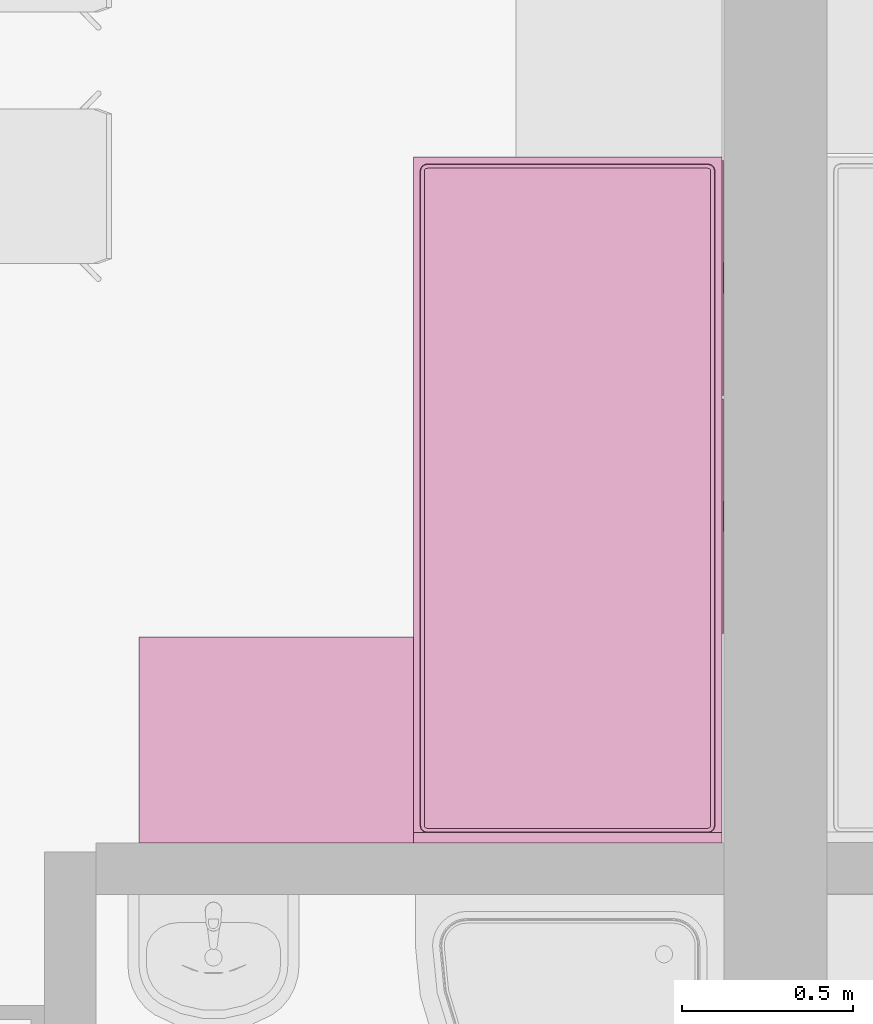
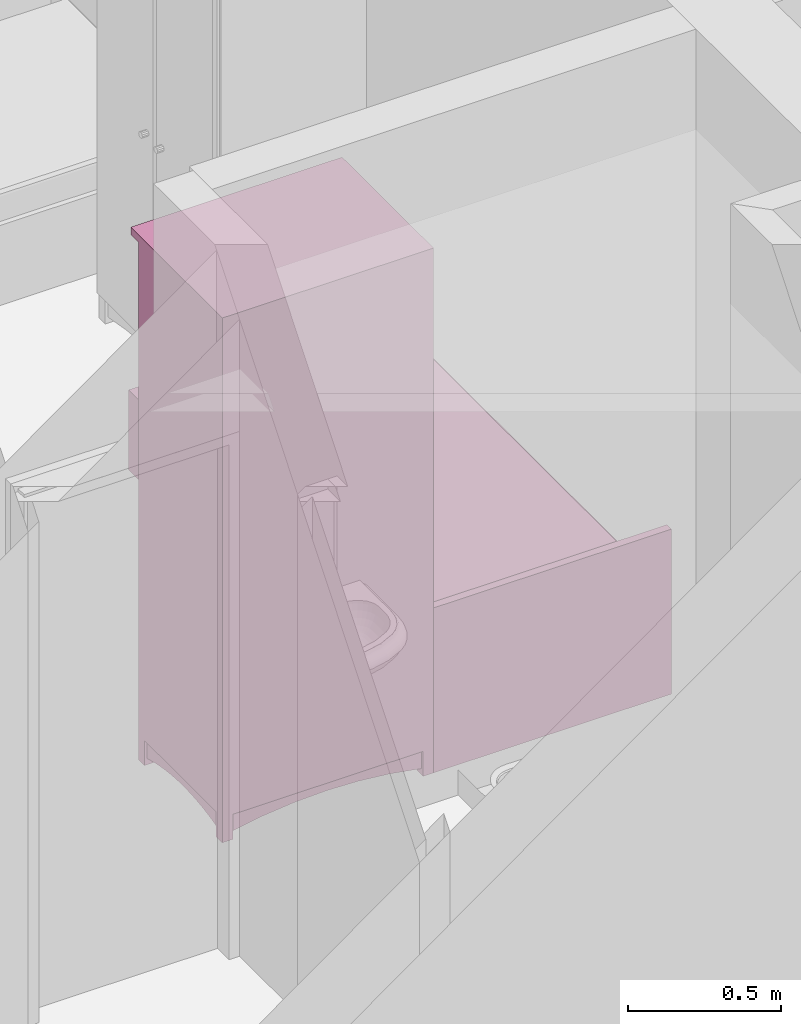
# One storey, part 109 of 172: 2 furnishings.
"""IFC2X3 building model written with IfcOpenShell, lengths in millimetres."""

import ifcopenshell
import ifcopenshell.guid

model = None  # the IFC model being written
_history = None  # IfcOwnerHistory: only IFC2X3 demands one
_inside = {}  # id of a spatial element -> (the spatial element, [elements in it])
_under = {}  # id of a project, library or spatial element -> (it, [spatial elements below it])
_declared = {}  # id of a project -> (the project, [libraries it declares])
_typed = {}  # id of a type object -> (the type object, [elements of that type])
_made_of = {}  # id of a material, layer set ... -> (it, [elements and type objects made of it])


def new_model(schema):
    """Start an empty IFC model of exactly this schema.

    Asked for "IFC4X3", IfcOpenShell would pick the latest addendum, in which some entities
    have other attributes; the version numbers below select the first issue.
    IFC2X3 requires an IfcOwnerHistory on every rooted entity: one is made here for all.
    """
    global model, _history
    if schema == "IFC4X3":
        model = ifcopenshell.file(schema_version=(4, 3, 0, 0))
    else:
        model = ifcopenshell.file(schema=schema)
    _inside.clear()
    _under.clear()
    _declared.clear()
    _typed.clear()
    _made_of.clear()
    _history = None
    if model.schema == "IFC2X3":
        org = make("IfcOrganization", Name="unknown")
        user = make(
            "IfcPersonAndOrganization",
            ThePerson=make("IfcPerson", FamilyName="unknown"),
            TheOrganization=org,
        )
        app = make(
            "IfcApplication",
            ApplicationDeveloper=org,
            Version="unknown",
            ApplicationFullName="unknown",
            ApplicationIdentifier="unknown",
        )
        _history = make(
            "IfcOwnerHistory",
            OwningUser=user,
            OwningApplication=app,
            ChangeAction="ADDED",
            CreationDate=0,
        )
    return model


def make(cls, **values):
    """One entity of the class cls with the attributes given. An attribute that is None is left unset."""
    return model.create_entity(
        cls, **{name: value for name, value in values.items() if value is not None}
    )


def entity(cls, *values):
    """Any entity or typed value of the class cls, its attributes in the order of the schema. None: left unset."""
    e = model.create_entity(cls)
    for i, value in enumerate(values):
        if value is not None:
            e[i] = value
    return e


def rooted(cls, **values):
    """An entity with a GlobalId (a new one), such as an element, a storey or a relation."""
    return make(cls, GlobalId=ifcopenshell.guid.new(), OwnerHistory=_history, **values)


def si_unit(unit_type, name, prefix=None):
    """IfcSIUnit, for example si_unit("LENGTHUNIT", "METRE", prefix="MILLI")."""
    return make("IfcSIUnit", UnitType=unit_type, Prefix=prefix, Name=name)


def converted_unit(unit_type, name, factor, base, dimensions=None, offset=None):
    """IfcConversionBasedUnit, such as the inch: factor (a typed value) times the base unit."""
    return make(
        "IfcConversionBasedUnit"
        if offset is None
        else "IfcConversionBasedUnitWithOffset",
        ConversionOffset=offset,
        Dimensions=None
        if dimensions is None
        else entity("IfcDimensionalExponents", *dimensions),
        UnitType=unit_type,
        Name=name,
        ConversionFactor=make(
            "IfcMeasureWithUnit", ValueComponent=factor, UnitComponent=base
        ),
    )


def money_unit(currency):
    """IfcMonetaryUnit."""
    return make("IfcMonetaryUnit", Currency=currency)


def assignment(units):
    """IfcUnitAssignment: the units of a project."""
    return None if units is None else make("IfcUnitAssignment", Units=units)


def point(xyz):
    """IfcCartesianPoint."""
    return None if xyz is None else make("IfcCartesianPoint", Coordinates=xyz)


def direction(xyz):
    """IfcDirection."""
    return None if xyz is None else make("IfcDirection", DirectionRatios=xyz)


def frame(location, z_axis=None, x_axis=None):
    """IfcAxis2Placement3D, a coordinate frame: its origin and axes. An axis left out is left unset."""
    return make(
        "IfcAxis2Placement3D",
        Location=point(location),
        Axis=direction(z_axis),
        RefDirection=direction(x_axis),
    )


def origin_with_axes():
    """The frame at (0, 0, 0) with the z axis (0, 0, 1) and the x axis (1, 0, 0) written out."""
    return frame((0.0, 0.0, 0.0), z_axis=(0.0, 0.0, 1.0), x_axis=(1.0, 0.0, 0.0))


def place(relative_to, where):
    """IfcLocalPlacement: puts the frame where relative to a parent placement (None: the world)."""
    return make(
        "IfcLocalPlacement", PlacementRelTo=relative_to, RelativePlacement=where
    )


def context(
    kind, dimensions, precision=None, world=None, true_north=None, identifier=None
):
    """IfcGeometricRepresentationContext, for example the 3D "Model" context."""
    return make(
        "IfcGeometricRepresentationContext",
        ContextIdentifier=identifier,
        ContextType=kind,
        CoordinateSpaceDimension=dimensions,
        Precision=precision,
        WorldCoordinateSystem=world,
        TrueNorth=true_north,
    )


def subcontext(parent, identifier, kind, view, scale=None):
    """IfcGeometricRepresentationSubContext, for example "Body" below "Model"."""
    return make(
        "IfcGeometricRepresentationSubContext",
        ContextIdentifier=identifier,
        ContextType=kind,
        ParentContext=parent,
        TargetScale=scale,
        TargetView=view,
    )


def project(units=None, contexts=None):
    """IfcProject with its units and contexts."""
    return rooted(
        "IfcProject",
        Name="project",
        RepresentationContexts=contexts,
        UnitsInContext=assignment(units),
    )


def spatial(cls, under=None, at=None, **own):
    """A site, building, storey or space (cls), placed at a placement, below another one or the project."""
    s = rooted(cls, ObjectPlacement=at, **own)
    if under is not None:
        _under.setdefault(under.id(), (under, []))[1].append(s)
    return s


def faces_of(points, faces, orient=None, outer=None):
    """IfcFace entities. A face is a list of loops; a loop is a list of indices into points, from 0.

    orient and outer hold one flag for each loop. By default every Orientation is true, the
    first loop of a face is its IfcFaceOuterBound and the others are IfcFaceBound.
    """
    made = []
    for i, loops in enumerate(faces):
        bounds = []
        for j, loop in enumerate(loops):
            is_outer = j == 0 if outer is None else outer[i][j]
            bounds.append(
                make(
                    "IfcFaceOuterBound" if is_outer else "IfcFaceBound",
                    Bound=make("IfcPolyLoop", Polygon=[points[k] for k in loop]),
                    Orientation=True if orient is None else orient[i][j],
                )
            )
        made.append(make("IfcFace", Bounds=bounds))
    return made


def faceted_brep(points, faces, orient=None, outer=None, voids=None):
    """IfcFacetedBrep: a solid bounded by flat faces; with voids (closed shells), ...WithVoids."""
    shared = [point(p) for p in points]
    hull = make("IfcClosedShell", CfsFaces=faces_of(shared, faces, orient, outer))
    if voids is None:
        return make("IfcFacetedBrep", Outer=hull)
    return make(
        "IfcFacetedBrepWithVoids",
        Outer=hull,
        Voids=[
            make(cls, CfsFaces=faces_of(shared, fs, o, b)) for cls, fs, o, b in voids
        ],
    )


def shape(context_of_items, identifier, shape_type, items):
    """IfcShapeRepresentation: the items that make up one representation, for example the "Body"."""
    return make(
        "IfcShapeRepresentation",
        ContextOfItems=context_of_items,
        RepresentationIdentifier=identifier,
        RepresentationType=shape_type,
        Items=items,
    )


def source(mapping_origin, context_of_items, identifier, shape_type, items):
    """IfcRepresentationMap: a shape defined once, which mapped items show again and again."""
    return make(
        "IfcRepresentationMap",
        MappingOrigin=mapping_origin,
        MappedRepresentation=shape(context_of_items, identifier, shape_type, items),
    )


def transform(
    local_origin,
    x_axis=None,
    y_axis=None,
    z_axis=None,
    scale=None,
    scale2=None,
    scale3=None,
    uniform=True,
):
    """IfcCartesianTransformationOperator3D, or its non-uniform kind. x_axis, y_axis, z_axis: its Axis1, 2, 3."""
    if uniform:
        return make(
            "IfcCartesianTransformationOperator3D",
            Axis1=direction(x_axis),
            Axis2=direction(y_axis),
            LocalOrigin=point(local_origin),
            Scale=scale,
            Axis3=direction(z_axis),
        )
    return make(
        "IfcCartesianTransformationOperator3DnonUniform",
        Axis1=direction(x_axis),
        Axis2=direction(y_axis),
        LocalOrigin=point(local_origin),
        Scale=scale,
        Axis3=direction(z_axis),
        Scale2=scale2,
        Scale3=scale3,
    )


def mapped(mapping_source, mapping_target):
    """IfcMappedItem: shows the shape of a source again, moved by a transform."""
    return make(
        "IfcMappedItem", MappingSource=mapping_source, MappingTarget=mapping_target
    )


def material(Name=None, Category=None):
    """IfcMaterial."""
    return make("IfcMaterial", Name=Name, Category=Category)


def material_list(materials):
    """IfcMaterialList."""
    return make("IfcMaterialList", Materials=materials)


def made_of(thing, what):
    """Note that an element or type object is made of a material, layer set ...; save() writes the relation."""
    if what is not None:
        _made_of.setdefault(what.id(), (what, []))[1].append(thing)
    return thing


def type_object(cls, material=None, **own):
    """A type object (cls), such as IfcWallType, which elements share."""
    return made_of(rooted(cls, **own), material)


def element(
    cls,
    number,
    at=None,
    inside=None,
    cuts=None,
    type_object=None,
    material=None,
    context=None,
    identifier="Body",
    shape_type=None,
    held_by="IfcProductDefinitionShape",
    body=None,
    shapes=None,
    **own,
):
    """One element of the class cls, such as IfcWall. Its Tag is "e" and its number.

    at: its placement. inside: the storey or other place that contains it. cuts: it is an
    opening in that element (IfcRelVoidsElement). A single representation is given by context,
    identifier, shape_type and body (its items); several are given by shapes. held_by: the class
    of the entity that holds the representations. save() writes the other relations.
    """
    e = rooted(cls, Tag="e%d" % number, ObjectPlacement=at, **own)
    if body is not None:
        shapes = [shape(context, identifier, shape_type, body)]
    if shapes is not None:
        e.Representation = make(held_by, Representations=shapes)
    if inside is not None:
        _inside.setdefault(inside.id(), (inside, []))[1].append(e)
    if cuts is not None:
        rooted(
            "IfcRelVoidsElement", RelatingBuildingElement=cuts, RelatedOpeningElement=e
        )
    if type_object is not None:
        _typed.setdefault(type_object.id(), (type_object, []))[1].append(e)
    return made_of(e, material)


def aggregate(whole, parts):
    """IfcRelAggregates: a whole, such as a stair, and the parts it consists of."""
    return rooted("IfcRelAggregates", RelatingObject=whole, RelatedObjects=parts)


def save(model, path):
    """Write the relations noted so far, then the file.

    IfcRelAggregates (storeys below a building ...), IfcRelContainedInSpatialStructure (elements
    in a storey), IfcRelDefinesByType, IfcRelAssociatesMaterial and IfcRelDeclares: one each for
    every whole, place, type object, material and project.
    """
    for whole, parts in _under.values():
        aggregate(whole, parts)
    for where, things in _inside.values():
        rooted(
            "IfcRelContainedInSpatialStructure",
            RelatedElements=things,
            RelatingStructure=where,
        )
    for kind, things in _typed.values():
        rooted("IfcRelDefinesByType", RelatedObjects=things, RelatingType=kind)
    for what, things in _made_of.values():
        rooted("IfcRelAssociatesMaterial", RelatedObjects=things, RelatingMaterial=what)
    for by, libraries in _declared.values():
        rooted("IfcRelDeclares", RelatingContext=by, RelatedDefinitions=libraries)
    model.write(path)


model = new_model("IFC2X3")

# Units and contexts
model_context = context("Model", 3, precision=1e-05, world=origin_with_axes(), true_north=direction((0.0, 1.0)))
body_context = subcontext(model_context, "Body", "Model", "MODEL_VIEW")
ifc_project = project(units=[si_unit("LENGTHUNIT", "METRE", prefix="MILLI"), si_unit("AREAUNIT", "SQUARE_METRE"), si_unit("VOLUMEUNIT", "CUBIC_METRE"), converted_unit("PLANEANGLEUNIT", "DEGREE", entity("IfcPlaneAngleMeasure", 0.0174532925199), si_unit("PLANEANGLEUNIT", "RADIAN"), dimensions=[0, 0, 0, 0, 0, 0, 0]), si_unit("SOLIDANGLEUNIT", "STERADIAN"), money_unit("USD"), converted_unit("TIMEUNIT", "Year", entity("IfcTimeMeasure", 31556926.0), si_unit("TIMEUNIT", "SECOND"), dimensions=[0, 0, 0, 0, 0, 0, 0]), si_unit("MASSUNIT", "GRAM"), si_unit("THERMODYNAMICTEMPERATUREUNIT", "DEGREE_CELSIUS"), si_unit("LUMINOUSINTENSITYUNIT", "LUMEN")], contexts=[model_context])

# Site, building, storey
site_placement = place(None, origin_with_axes())
site = spatial("IfcSite", under=ifc_project, at=site_placement, Name="Site", CompositionType="ELEMENT")
building_placement = place(site_placement, origin_with_axes())
building = spatial("IfcBuilding", under=site, at=building_placement, Name="Building", CompositionType="ELEMENT")
storey_placement = place(building_placement, frame((0.0, 0.0, 3200.0), z_axis=(0.0, 0.0, 1.0), x_axis=(1.0, 0.0, 0.0)))
storey = spatial("IfcBuildingStorey", under=building, at=storey_placement, Name="3KORRUS", CompositionType="ELEMENT", Elevation=3200.0)

# Furnishings
ifc_material = material(Name="Background")
ifc_material_list = material_list([ifc_material])
furnishing_element_type_1 = type_object("IfcFurnishingElementType", Name="Cupboard 19")
shared_shape_1 = source(origin_with_axes(), body_context, "Body", "Brep", [
    faceted_brep([(-780.0, 600.0, 120.0), (-780.0, 580.0, 120.0), (-780.0, 580.0, 2050.0), (-780.0, 600.0, 2050.0), (-20.0, 600.0, 120.0), (-20.0, 580.0, 120.0), (-20.0, 580.0, 2050.0), (-20.0, 600.0, 2050.0)], [[[0, 1, 2, 3]], [[0, 4, 5, 1]], [[1, 5, 6, 2]], [[3, 2, 6, 7]], [[4, 0, 3, 7]], [[5, 4, 7, 6]]]),
    faceted_brep([(0.0, 50.0, 100.0), (-20.0, 50.0, 100.0), (-20.0, 600.0, 100.0), (0.0, 600.0, 100.0), (0.0, 50.0, 2070.0), (-20.0, 50.0, 2070.0), (-20.0, 600.0, 2070.0), (0.0, 600.0, 2070.0)], [[[0, 1, 2, 3]], [[1, 0, 4, 5]], [[2, 1, 5, 6]], [[3, 2, 6, 7]], [[0, 3, 7, 4]], [[5, 4, 7, 6]]]),
    faceted_brep([(-780.0, 50.0, 100.0), (-800.0, 50.0, 100.0), (-800.0, 600.0, 100.0), (-780.0, 600.0, 100.0), (-780.0, 50.0, 2070.0), (-800.0, 50.0, 2070.0), (-800.0, 600.0, 2070.0), (-780.0, 600.0, 2070.0)], [[[0, 1, 2, 3]], [[1, 0, 4, 5]], [[2, 1, 5, 6]], [[3, 2, 6, 7]], [[0, 3, 7, 4]], [[5, 4, 7, 6]]]),
    faceted_brep([(-20.0, 50.0, 100.0), (-780.0, 50.0, 100.0), (-780.0, 600.0, 100.0), (-20.0, 600.0, 100.0), (-20.0, 50.0, 120.0), (-780.0, 50.0, 120.0), (-780.0, 600.0, 120.0), (-20.0, 600.0, 120.0)], [[[0, 1, 2, 3]], [[1, 0, 4, 5]], [[2, 1, 5, 6]], [[3, 2, 6, 7]], [[0, 3, 7, 4]], [[5, 4, 7, 6]]]),
    faceted_brep([(-20.0, 50.0, 2050.0), (-780.0, 50.0, 2050.0), (-780.0, 600.0, 2050.0), (-20.0, 600.0, 2050.0), (-20.0, 50.0, 2070.0), (-780.0, 50.0, 2070.0), (-780.0, 600.0, 2070.0), (-20.0, 600.0, 2070.0)], [[[0, 1, 2, 3]], [[1, 0, 4, 5]], [[2, 1, 5, 6]], [[3, 2, 6, 7]], [[0, 3, 7, 4]], [[5, 4, 7, 6]]]),
    faceted_brep([(0.0, 600.0, 2070.0), (0.0, 600.0, 2100.0), (0.0, 0.0, 2100.0), (0.0, 0.0, 2070.0), (-800.0, 600.0, 2070.0), (-800.0, 600.0, 2100.0), (-800.0, 0.0, 2100.0), (-800.0, 0.0, 2070.0)], [[[0, 1, 2, 3]], [[4, 5, 1, 0]], [[1, 5, 6, 2]], [[3, 2, 6, 7]], [[0, 3, 7, 4]], [[7, 6, 5, 4]]]),
    faceted_brep([(-760.0, 590.0, 25.0), (-640.962, 590.0, 45.8), (-640.962, 570.0, 45.8), (-760.0, 570.0, 25.0), (-760.0, 590.0, 100.0), (-40.0, 590.0, 100.0), (-40.0, 590.0, 25.0), (-159.038, 590.0, 45.8), (-279.23, 590.0, 58.32), (-400.0, 590.0, 62.5), (-520.77, 590.0, 58.32), (-520.77, 570.0, 58.32), (-400.0, 570.0, 62.5), (-279.23, 570.0, 58.32), (-159.038, 570.0, 45.8), (-40.0, 570.0, 25.0), (-40.0, 570.0, 100.0), (-760.0, 570.0, 100.0)], [[[0, 1, 2, 3]], [[0, 4, 5, 6, 7, 8, 9, 10, 1]], [[1, 10, 11, 2]], [[3, 2, 11, 12, 13, 14, 15, 16, 17]], [[4, 0, 3, 17]], [[5, 4, 17, 16]], [[6, 5, 16, 15]], [[7, 6, 15, 14]], [[8, 7, 14, 13]], [[9, 8, 13, 12]], [[10, 9, 12, 11]]]),
    faceted_brep([(-760.0, 80.0, 25.0), (-640.962, 80.0, 45.8), (-640.962, 60.0, 45.8), (-760.0, 60.0, 25.0), (-760.0, 80.0, 100.0), (-40.0, 80.0, 100.0), (-40.0, 80.0, 25.0), (-159.038, 80.0, 45.8), (-279.23, 80.0, 58.32), (-400.0, 80.0, 62.5), (-520.77, 80.0, 58.32), (-520.77, 60.0, 58.32), (-400.0, 60.0, 62.5), (-279.23, 60.0, 58.32), (-159.038, 60.0, 45.8), (-40.0, 60.0, 25.0), (-40.0, 60.0, 100.0), (-760.0, 60.0, 100.0)], [[[0, 1, 2, 3]], [[0, 4, 5, 6, 7, 8, 9, 10, 1]], [[1, 10, 11, 2]], [[3, 2, 11, 12, 13, 14, 15, 16, 17]], [[4, 0, 3, 17]], [[5, 4, 17, 16]], [[6, 5, 16, 15]], [[7, 6, 15, 14]], [[8, 7, 14, 13]], [[9, 8, 13, 12]], [[10, 9, 12, 11]]]),
    faceted_brep([(-790.0, 90.0, 25.0), (-790.0, 141.266, 38.072), (-770.0, 141.266, 38.072), (-770.0, 90.0, 25.0), (-790.0, 90.0, 100.0), (-790.0, 560.0, 100.0), (-790.0, 560.0, 25.0), (-790.0, 508.734, 38.072), (-790.0, 456.752, 47.92), (-790.0, 404.257, 54.508), (-790.0, 351.453, 57.808), (-790.0, 298.547, 57.808), (-790.0, 245.743, 54.508), (-790.0, 193.248, 47.92), (-770.0, 193.248, 47.92), (-770.0, 245.743, 54.508), (-770.0, 298.547, 57.808), (-770.0, 351.453, 57.808), (-770.0, 404.257, 54.508), (-770.0, 456.752, 47.92), (-770.0, 508.734, 38.072), (-770.0, 560.0, 25.0), (-770.0, 560.0, 100.0), (-770.0, 90.0, 100.0)], [[[0, 1, 2, 3]], [[0, 4, 5, 6, 7, 8, 9, 10, 11, 12, 13, 1]], [[1, 13, 14, 2]], [[3, 2, 14, 15, 16, 17, 18, 19, 20, 21, 22, 23]], [[4, 0, 3, 23]], [[5, 4, 23, 22]], [[6, 5, 22, 21]], [[7, 6, 21, 20]], [[8, 7, 20, 19]], [[9, 8, 19, 18]], [[10, 9, 18, 17]], [[11, 10, 17, 16]], [[12, 11, 16, 15]], [[13, 12, 15, 14]]]),
    faceted_brep([(-30.0, 90.0, 25.0), (-30.0, 141.266, 38.072), (-10.0, 141.266, 38.072), (-10.0, 90.0, 25.0), (-30.0, 90.0, 100.0), (-30.0, 560.0, 100.0), (-30.0, 560.0, 25.0), (-30.0, 508.734, 38.072), (-30.0, 456.752, 47.92), (-30.0, 404.257, 54.508), (-30.0, 351.453, 57.808), (-30.0, 298.547, 57.808), (-30.0, 245.743, 54.508), (-30.0, 193.248, 47.92), (-10.0, 193.248, 47.92), (-10.0, 245.743, 54.508), (-10.0, 298.547, 57.808), (-10.0, 351.453, 57.808), (-10.0, 404.257, 54.508), (-10.0, 456.752, 47.92), (-10.0, 508.734, 38.072), (-10.0, 560.0, 25.0), (-10.0, 560.0, 100.0), (-10.0, 90.0, 100.0)], [[[0, 1, 2, 3]], [[0, 4, 5, 6, 7, 8, 9, 10, 11, 12, 13, 1]], [[1, 13, 14, 2]], [[3, 2, 14, 15, 16, 17, 18, 19, 20, 21, 22, 23]], [[4, 0, 3, 23]], [[5, 4, 23, 22]], [[6, 5, 22, 21]], [[7, 6, 21, 20]], [[8, 7, 20, 19]], [[9, 8, 19, 18]], [[10, 9, 18, 17]], [[11, 10, 17, 16]], [[12, 11, 16, 15]], [[13, 12, 15, 14]]]),
    faceted_brep([(-760.0, 560.0, 0.0), (-760.0, 600.0, 0.0), (-760.0, 600.0, 100.0), (-760.0, 560.0, 100.0), (-800.0, 560.0, 0.0), (-800.0, 600.0, 0.0), (-800.0, 600.0, 100.0), (-800.0, 560.0, 100.0)], [[[0, 1, 2, 3]], [[0, 4, 5, 1]], [[1, 5, 6, 2]], [[3, 2, 6, 7]], [[4, 0, 3, 7]], [[5, 4, 7, 6]]]),
    faceted_brep([(0.0, 560.0, 0.0), (0.0, 600.0, 0.0), (0.0, 600.0, 100.0), (0.0, 560.0, 100.0), (-40.0, 560.0, 0.0), (-40.0, 600.0, 0.0), (-40.0, 600.0, 100.0), (-40.0, 560.0, 100.0)], [[[0, 1, 2, 3]], [[0, 4, 5, 1]], [[1, 5, 6, 2]], [[3, 2, 6, 7]], [[4, 0, 3, 7]], [[5, 4, 7, 6]]]),
    faceted_brep([(-760.0, 50.0, 0.0), (-760.0, 90.0, 0.0), (-760.0, 90.0, 100.0), (-760.0, 50.0, 100.0), (-800.0, 50.0, 0.0), (-800.0, 90.0, 0.0), (-800.0, 90.0, 100.0), (-800.0, 50.0, 100.0)], [[[0, 1, 2, 3]], [[0, 4, 5, 1]], [[1, 5, 6, 2]], [[3, 2, 6, 7]], [[4, 0, 3, 7]], [[5, 4, 7, 6]]]),
    faceted_brep([(0.0, 50.0, 0.0), (0.0, 90.0, 0.0), (0.0, 90.0, 100.0), (0.0, 50.0, 100.0), (-40.0, 50.0, 0.0), (-40.0, 90.0, 0.0), (-40.0, 90.0, 100.0), (-40.0, 50.0, 100.0)], [[[0, 1, 2, 3]], [[0, 4, 5, 1]], [[1, 5, 6, 2]], [[3, 2, 6, 7]], [[4, 0, 3, 7]], [[5, 4, 7, 6]]]),
    faceted_brep([(-780.0, 580.0, 587.5), (-780.0, 50.0, 587.5), (-780.0, 50.0, 607.5), (-780.0, 580.0, 607.5), (-20.0, 580.0, 587.5), (-20.0, 50.0, 587.5), (-20.0, 50.0, 607.5), (-20.0, 580.0, 607.5)], [[[0, 1, 2, 3]], [[0, 4, 5, 1]], [[1, 5, 6, 2]], [[3, 2, 6, 7]], [[4, 0, 3, 7]], [[5, 4, 7, 6]]]),
    faceted_brep([(-780.0, 580.0, 1075.0), (-780.0, 50.0, 1075.0), (-780.0, 50.0, 1095.0), (-780.0, 580.0, 1095.0), (-20.0, 580.0, 1075.0), (-20.0, 50.0, 1075.0), (-20.0, 50.0, 1095.0), (-20.0, 580.0, 1095.0)], [[[0, 1, 2, 3]], [[0, 4, 5, 1]], [[1, 5, 6, 2]], [[3, 2, 6, 7]], [[4, 0, 3, 7]], [[5, 4, 7, 6]]]),
    faceted_brep([(-780.0, 580.0, 1562.5), (-780.0, 50.0, 1562.5), (-780.0, 50.0, 1582.5), (-780.0, 580.0, 1582.5), (-20.0, 580.0, 1562.5), (-20.0, 50.0, 1562.5), (-20.0, 50.0, 1582.5), (-20.0, 580.0, 1582.5)], [[[0, 1, 2, 3]], [[0, 4, 5, 1]], [[1, 5, 6, 2]], [[3, 2, 6, 7]], [[4, 0, 3, 7]], [[5, 4, 7, 6]]]),
    faceted_brep([(-789.5, 50.0, 110.5), (-789.5, 50.0, 2059.5), (-400.5, 50.0, 2059.5), (-400.5, 50.0, 110.5), (-789.5, 40.0, 110.5), (-789.5, 40.0, 2059.5), (-400.5, 40.0, 2059.5), (-400.5, 40.0, 110.5), (-779.5, 30.0, 120.5), (-779.5, 30.0, 2049.5), (-410.5, 30.0, 2049.5), (-410.5, 30.0, 120.5)], [[[0, 1, 2, 3]], [[1, 0, 4, 5]], [[2, 1, 5, 6]], [[3, 2, 6, 7]], [[0, 3, 7, 4]], [[5, 4, 8, 9]], [[6, 5, 9, 10]], [[7, 6, 10, 11]], [[4, 7, 11, 8]], [[10, 9, 8, 11]]]),
    faceted_brep([(-399.5, 50.0, 110.5), (-399.5, 50.0, 2059.5), (-10.5, 50.0, 2059.5), (-10.5, 50.0, 110.5), (-399.5, 40.0, 110.5), (-399.5, 40.0, 2059.5), (-10.5, 40.0, 2059.5), (-10.5, 40.0, 110.5), (-389.5, 30.0, 120.5), (-389.5, 30.0, 2049.5), (-20.5, 30.0, 2049.5), (-20.5, 30.0, 120.5)], [[[0, 1, 2, 3]], [[1, 0, 4, 5]], [[2, 1, 5, 6]], [[3, 2, 6, 7]], [[0, 3, 7, 4]], [[5, 4, 8, 9]], [[6, 5, 9, 10]], [[7, 6, 10, 11]], [[4, 7, 11, 8]], [[10, 9, 8, 11]]]),
    faceted_brep([(-339.608, 30.0, 954.0), (-344.0, 30.0, 949.608), (-350.0, 30.0, 948.0), (-356.0, 30.0, 949.608), (-360.392, 30.0, 954.0), (-362.0, 30.0, 960.0), (-360.392, 30.0, 966.0), (-356.0, 30.0, 970.392), (-350.0, 30.0, 972.0), (-344.0, 30.0, 970.392), (-339.608, 30.0, 966.0), (-338.0, 30.0, 960.0), (-339.608, 5.0, 954.0), (-344.0, 5.0, 949.608), (-350.0, 5.0, 948.0), (-356.0, 5.0, 949.608), (-360.392, 5.0, 954.0), (-362.0, 5.0, 960.0), (-360.392, 5.0, 966.0), (-356.0, 5.0, 970.392), (-350.0, 5.0, 972.0), (-344.0, 5.0, 970.392), (-339.608, 5.0, 966.0), (-338.0, 5.0, 960.0)], [[[0, 1, 2, 3, 4, 5, 6, 7, 8, 9, 10, 11]], [[1, 0, 12, 13]], [[2, 1, 13, 14]], [[3, 2, 14, 15]], [[4, 3, 15, 16]], [[5, 4, 16, 17]], [[6, 5, 17, 18]], [[7, 6, 18, 19]], [[8, 7, 19, 20]], [[9, 8, 20, 21]], [[10, 9, 21, 22]], [[11, 10, 22, 23]], [[0, 11, 23, 12]], [[12, 23, 22, 21, 20, 19, 18, 17, 16, 15, 14, 13]]]),
    faceted_brep([(-460.392, 30.0, 954.0), (-462.0, 30.0, 960.0), (-460.392, 30.0, 966.0), (-456.0, 30.0, 970.392), (-450.0, 30.0, 972.0), (-444.0, 30.0, 970.392), (-439.608, 30.0, 966.0), (-438.0, 30.0, 960.0), (-439.608, 30.0, 954.0), (-444.0, 30.0, 949.608), (-450.0, 30.0, 948.0), (-456.0, 30.0, 949.608), (-460.392, 5.0, 954.0), (-462.0, 5.0, 960.0), (-460.392, 5.0, 966.0), (-456.0, 5.0, 970.392), (-450.0, 5.0, 972.0), (-444.0, 5.0, 970.392), (-439.608, 5.0, 966.0), (-438.0, 5.0, 960.0), (-439.608, 5.0, 954.0), (-444.0, 5.0, 949.608), (-450.0, 5.0, 948.0), (-456.0, 5.0, 949.608)], [[[0, 1, 2, 3, 4, 5, 6, 7, 8, 9, 10, 11]], [[0, 12, 13, 1]], [[1, 13, 14, 2]], [[2, 14, 15, 3]], [[3, 15, 16, 4]], [[4, 16, 17, 5]], [[5, 17, 18, 6]], [[6, 18, 19, 7]], [[7, 19, 20, 8]], [[8, 20, 21, 9]], [[9, 21, 22, 10]], [[10, 22, 23, 11]], [[11, 23, 12, 0]], [[12, 23, 22, 21, 20, 19, 18, 17, 16, 15, 14, 13]]]),
])
furnishing_1_placement = place(storey_placement, frame((-37996.5850987, -8617.37850445, 0.0), z_axis=(0.0, 0.0, 1.0), x_axis=(-1.0, 0.0, 0.0)))
element("IfcFurnishingElement", 1, at=furnishing_1_placement, inside=storey, type_object=furnishing_element_type_1, material=ifc_material_list, Name="FU - 014", context=body_context, shape_type="MappedRepresentation", body=[
    mapped(shared_shape_1, transform((0.0, 0.0, 0.0))),
])
furnishing_element_type_2 = type_object("IfcFurnishingElementType", Name="Bed 19")
shared_shape_2 = source(origin_with_axes(), body_context, "Body", "Brep", [
    faceted_brep([(-900.0, 1970.0, 0.0), (-900.0, 2000.0, 0.0), (0.0, 2000.0, 0.0), (0.0, 1970.0, 0.0), (-900.0, 1970.0, 660.0), (-900.0, 2000.0, 660.0), (0.0, 2000.0, 660.0), (0.0, 1970.0, 660.0)], [[[0, 1, 2, 3]], [[0, 4, 5, 1]], [[1, 5, 6, 2]], [[2, 6, 7, 3]], [[3, 7, 4, 0]], [[7, 6, 5, 4]]]),
    faceted_brep([(-900.0, 0.0, 0.0), (-900.0, 1970.0, 0.0), (0.0, 1970.0, 0.0), (0.0, 0.0, 0.0), (-900.0, 0.0, 320.0), (-900.0, 1970.0, 320.0), (0.0, 1970.0, 320.0), (0.0, 0.0, 320.0)], [[[0, 1, 2, 3]], [[0, 4, 5, 1]], [[1, 5, 6, 2]], [[2, 6, 7, 3]], [[3, 7, 4, 0]], [[7, 6, 5, 4]]]),
    faceted_brep([(-905.0, 10.0, 30.0), (-905.0, 695.0, 30.0), (-900.0, 695.0, 30.0), (-900.0, 10.0, 30.0), (-905.0, 10.0, 290.0), (-905.0, 695.0, 290.0), (-900.0, 695.0, 290.0), (-900.0, 10.0, 290.0)], [[[0, 1, 2, 3]], [[0, 4, 5, 1]], [[1, 5, 6, 2]], [[2, 6, 7, 3]], [[3, 7, 4, 0]], [[7, 6, 5, 4]]]),
    faceted_brep([(-935.0, 307.5, 150.0), (-935.0, 397.5, 150.0), (-905.0, 397.5, 150.0), (-905.0, 307.5, 150.0), (-935.0, 307.5, 170.0), (-935.0, 397.5, 170.0), (-905.0, 397.5, 170.0), (-905.0, 307.5, 170.0)], [[[0, 1, 2, 3]], [[0, 4, 5, 1]], [[1, 5, 6, 2]], [[2, 6, 7, 3]], [[3, 7, 4, 0]], [[7, 6, 5, 4]]]),
    faceted_brep([(-905.0, 705.0, 30.0), (-905.0, 1390.0, 30.0), (-900.0, 1390.0, 30.0), (-900.0, 705.0, 30.0), (-905.0, 705.0, 290.0), (-905.0, 1390.0, 290.0), (-900.0, 1390.0, 290.0), (-900.0, 705.0, 290.0)], [[[0, 1, 2, 3]], [[0, 4, 5, 1]], [[1, 5, 6, 2]], [[2, 6, 7, 3]], [[3, 7, 4, 0]], [[7, 6, 5, 4]]]),
    faceted_brep([(-935.0, 1002.5, 150.0), (-935.0, 1092.5, 150.0), (-905.0, 1092.5, 150.0), (-905.0, 1002.5, 150.0), (-935.0, 1002.5, 170.0), (-935.0, 1092.5, 170.0), (-905.0, 1092.5, 170.0), (-905.0, 1002.5, 170.0)], [[[0, 1, 2, 3]], [[0, 4, 5, 1]], [[1, 5, 6, 2]], [[2, 6, 7, 3]], [[3, 7, 4, 0]], [[7, 6, 5, 4]]]),
    faceted_brep([(-20.0, 40.0, 350.0), (-21.522, 32.346, 350.0), (-25.858, 25.858, 350.0), (-32.346, 21.522, 350.0), (-40.0, 20.0, 350.0), (-860.0, 20.0, 350.0), (-867.654, 21.522, 350.0), (-874.142, 25.858, 350.0), (-878.478, 32.346, 350.0), (-880.0, 40.0, 350.0), (-880.0, 1950.0, 350.0), (-878.478, 1957.654, 350.0), (-874.142, 1964.142, 350.0), (-867.654, 1968.478, 350.0), (-860.0, 1970.0, 350.0), (-40.0, 1970.0, 350.0), (-32.346, 1968.478, 350.0), (-25.858, 1964.142, 350.0), (-21.522, 1957.654, 350.0), (-20.0, 1950.0, 350.0), (-20.0, 40.0, 420.0), (-21.522, 32.346, 420.0), (-25.858, 25.858, 420.0), (-32.346, 21.522, 420.0), (-40.0, 20.0, 420.0), (-860.0, 20.0, 420.0), (-867.654, 21.522, 420.0), (-874.142, 25.858, 420.0), (-878.478, 32.346, 420.0), (-880.0, 40.0, 420.0), (-880.0, 1950.0, 420.0), (-878.478, 1957.654, 420.0), (-874.142, 1964.142, 420.0), (-867.654, 1968.478, 420.0), (-860.0, 1970.0, 420.0), (-40.0, 1970.0, 420.0), (-32.346, 1968.478, 420.0), (-25.858, 1964.142, 420.0), (-21.522, 1957.654, 420.0), (-20.0, 1950.0, 420.0), (-21.522, 40.15, 427.654), (-22.956, 32.94, 427.654), (-26.955, 26.955, 427.654), (-32.94, 22.956, 427.654), (-40.15, 21.522, 427.654), (-859.85, 21.522, 427.654), (-867.06, 22.956, 427.654), (-873.045, 26.955, 427.654), (-877.044, 32.94, 427.654), (-878.478, 40.15, 427.654), (-878.478, 1949.85, 427.654), (-877.044, 1957.06, 427.654), (-873.045, 1963.045, 427.654), (-867.06, 1967.044, 427.654), (-859.85, 1968.478, 427.654), (-40.15, 1968.478, 427.654), (-32.94, 1967.044, 427.654), (-26.955, 1963.045, 427.654), (-22.956, 1957.06, 427.654), (-21.522, 1949.85, 427.654), (-32.346, 41.216, 438.478), (-33.152, 37.164, 438.478), (-34.759, 34.759, 438.478), (-37.164, 33.152, 438.478), (-41.216, 32.346, 438.478), (-858.784, 32.346, 438.478), (-862.836, 33.152, 438.478), (-865.241, 34.759, 438.478), (-866.848, 37.164, 438.478), (-867.654, 41.216, 438.478), (-867.654, 1948.784, 438.478), (-866.848, 1952.836, 438.478), (-865.241, 1955.241, 438.478), (-862.836, 1956.848, 438.478), (-858.784, 1957.654, 438.478), (-41.216, 1957.654, 438.478), (-37.164, 1956.848, 438.478), (-34.759, 1955.241, 438.478), (-33.152, 1952.836, 438.478), (-32.346, 1948.784, 438.478), (-40.0, 41.97, 440.0), (-40.327, 40.327, 440.0), (-40.0, 40.0, 439.924), (-41.97, 40.0, 440.0), (-858.03, 40.0, 440.0), (-859.673, 40.327, 440.0), (-860.0, 40.0, 439.924), (-860.0, 41.97, 440.0), (-860.0, 1948.03, 440.0), (-859.673, 1949.673, 440.0), (-860.0, 1950.0, 439.924), (-858.03, 1950.0, 440.0), (-41.97, 1950.0, 440.0), (-40.327, 1949.673, 440.0), (-40.0, 1950.0, 439.924), (-40.0, 1948.03, 440.0)], [[[0, 1, 2, 3, 4, 5, 6, 7, 8, 9, 10, 11, 12, 13, 14, 15, 16, 17, 18, 19]], [[0, 20, 21, 1]], [[1, 21, 22, 2]], [[2, 22, 23, 3]], [[3, 23, 24, 4]], [[4, 24, 25, 5]], [[5, 25, 26, 6]], [[6, 26, 27, 7]], [[7, 27, 28, 8]], [[8, 28, 29, 9]], [[9, 29, 30, 10]], [[10, 30, 31, 11]], [[11, 31, 32, 12]], [[12, 32, 33, 13]], [[13, 33, 34, 14]], [[14, 34, 35, 15]], [[15, 35, 36, 16]], [[16, 36, 37, 17]], [[17, 37, 38, 18]], [[18, 38, 39, 19]], [[19, 39, 20, 0]], [[20, 40, 41, 21]], [[21, 41, 42, 22]], [[22, 42, 43, 23]], [[23, 43, 44, 24]], [[24, 44, 45, 25]], [[25, 45, 46, 26]], [[26, 46, 47, 27]], [[27, 47, 48, 28]], [[28, 48, 49, 29]], [[29, 49, 50, 30]], [[30, 50, 51, 31]], [[31, 51, 52, 32]], [[32, 52, 53, 33]], [[33, 53, 54, 34]], [[34, 54, 55, 35]], [[35, 55, 56, 36]], [[36, 56, 57, 37]], [[37, 57, 58, 38]], [[38, 58, 59, 39]], [[39, 59, 40, 20]], [[40, 60, 61, 41]], [[41, 61, 62, 42]], [[42, 62, 63, 43]], [[43, 63, 64, 44]], [[44, 64, 65, 45]], [[45, 65, 66, 46]], [[46, 66, 67, 47]], [[47, 67, 68, 48]], [[48, 68, 69, 49]], [[49, 69, 70, 50]], [[50, 70, 71, 51]], [[51, 71, 72, 52]], [[52, 72, 73, 53]], [[53, 73, 74, 54]], [[54, 74, 75, 55]], [[55, 75, 76, 56]], [[56, 76, 77, 57]], [[57, 77, 78, 58]], [[58, 78, 79, 59]], [[59, 79, 60, 40]], [[60, 80, 81, 82, 61]], [[61, 82, 62]], [[62, 82, 63]], [[63, 82, 81, 83, 64]], [[64, 83, 84, 65]], [[65, 84, 85, 86, 66]], [[66, 86, 67]], [[67, 86, 68]], [[68, 86, 85, 87, 69]], [[69, 87, 88, 70]], [[70, 88, 89, 90, 71]], [[71, 90, 72]], [[72, 90, 73]], [[73, 90, 89, 91, 74]], [[74, 91, 92, 75]], [[75, 92, 93, 94, 76]], [[76, 94, 77]], [[77, 94, 78]], [[78, 94, 93, 95, 79]], [[79, 95, 80, 60]], [[95, 93, 92, 91, 89, 88, 87, 85, 84, 83, 81, 80]]]),
    faceted_brep([(-20.0, 40.0, 350.0), (-20.0, 1950.0, 350.0), (-21.522, 1957.654, 350.0), (-25.858, 1964.142, 350.0), (-32.346, 1968.478, 350.0), (-40.0, 1970.0, 350.0), (-860.0, 1970.0, 350.0), (-867.654, 1968.478, 350.0), (-874.142, 1964.142, 350.0), (-878.478, 1957.654, 350.0), (-880.0, 1950.0, 350.0), (-880.0, 40.0, 350.0), (-878.478, 32.346, 350.0), (-874.142, 25.858, 350.0), (-867.654, 21.522, 350.0), (-860.0, 20.0, 350.0), (-40.0, 20.0, 350.0), (-32.346, 21.522, 350.0), (-25.858, 25.858, 350.0), (-21.522, 32.346, 350.0), (-20.0, 40.0, 320.0), (-20.0, 1950.0, 320.0), (-21.522, 1957.654, 320.0), (-25.858, 1964.142, 320.0), (-32.346, 1968.478, 320.0), (-40.0, 1970.0, 320.0), (-860.0, 1970.0, 320.0), (-867.654, 1968.478, 320.0), (-874.142, 1964.142, 320.0), (-878.478, 1957.654, 320.0), (-880.0, 1950.0, 320.0), (-880.0, 40.0, 320.0), (-878.478, 32.346, 320.0), (-874.142, 25.858, 320.0), (-867.654, 21.522, 320.0), (-860.0, 20.0, 320.0), (-40.0, 20.0, 320.0), (-32.346, 21.522, 320.0), (-25.858, 25.858, 320.0), (-21.522, 32.346, 320.0)], [[[0, 1, 2, 3, 4, 5, 6, 7, 8, 9, 10, 11, 12, 13, 14, 15, 16, 17, 18, 19]], [[1, 0, 20, 21]], [[2, 1, 21, 22]], [[3, 2, 22, 23]], [[4, 3, 23, 24]], [[5, 4, 24, 25]], [[6, 5, 25, 26]], [[7, 6, 26, 27]], [[8, 7, 27, 28]], [[9, 8, 28, 29]], [[10, 9, 29, 30]], [[11, 10, 30, 31]], [[12, 11, 31, 32]], [[13, 12, 32, 33]], [[14, 13, 33, 34]], [[15, 14, 34, 35]], [[16, 15, 35, 36]], [[17, 16, 36, 37]], [[18, 17, 37, 38]], [[19, 18, 38, 39]], [[0, 19, 39, 20]], [[20, 39, 38, 37, 36, 35, 34, 33, 32, 31, 30, 29, 28, 27, 26, 25, 24, 23, 22, 21]]]),
])
furnishing_2_placement = place(storey_placement, frame((-37196.5850987, -7217.37850445, 0.0), z_axis=(0.0, 0.0, 1.0), x_axis=(-1.0, 0.0, 0.0)))
element("IfcFurnishingElement", 2, at=furnishing_2_placement, inside=storey, type_object=furnishing_element_type_2, material=ifc_material_list, Name="FU - 013", context=body_context, shape_type="MappedRepresentation", body=[
    mapped(shared_shape_2, transform((0.0, 0.0, 0.0))),
])

save(model, "model.ifc")
